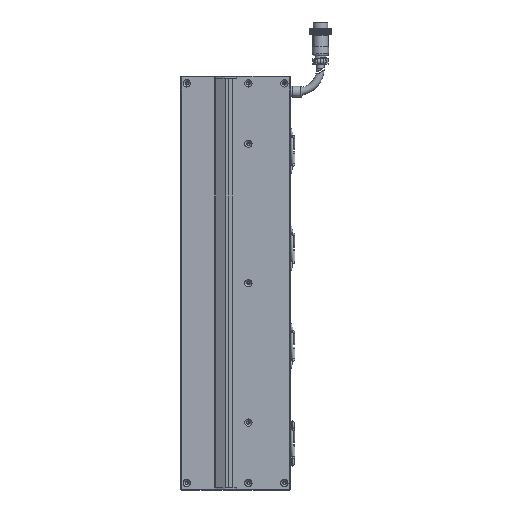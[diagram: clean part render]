
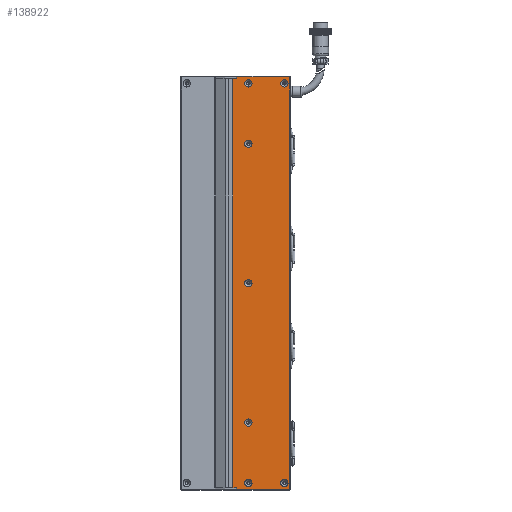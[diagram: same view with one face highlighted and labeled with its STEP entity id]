
A CAD part, left-side view. The second image highlights one B-rep face of the part: STEP entity #138922.
In plain terms, the highlighted planar face has unit normal (-1, 0, 0).
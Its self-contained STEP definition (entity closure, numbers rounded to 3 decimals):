
#1729 = DIRECTION ( 'NONE',  ( 0., 1., 0. ) ) ;
#2555 = VECTOR ( 'NONE', #88634, 1000. ) ;
#2591 = CARTESIAN_POINT ( 'NONE',  ( -24.998, -23.25, -176. ) ) ;
#4354 = CARTESIAN_POINT ( 'NONE',  ( -24.998, -23.25, 176. ) ) ;
#5633 = CARTESIAN_POINT ( 'NONE',  ( -24.998, -72.5, -176. ) ) ;
#5723 = ORIENTED_EDGE ( 'NONE', *, *, #104200, .F. ) ;
#6519 = LINE ( 'NONE', #2591, #109946 ) ;
#7404 = FACE_BOUND ( 'NONE', #55818, .T. ) ;
#9993 = CARTESIAN_POINT ( 'NONE',  ( -24.998, -36.5, 3.15 ) ) ;
#10130 = VERTEX_POINT ( 'NONE', #103655 ) ;
#12204 = EDGE_CURVE ( 'NONE', #55091, #55091, #46244, .T. ) ;
#14353 = CARTESIAN_POINT ( 'NONE',  ( -24.998, -36.5, -172. ) ) ;
#14438 = EDGE_CURVE ( 'NONE', #77381, #77381, #15612, .T. ) ;
#14886 = EDGE_CURVE ( 'NONE', #10130, #94433, #126566, .T. ) ;
#15412 = ORIENTED_EDGE ( 'NONE', *, *, #147973, .T. ) ;
#15612 = CIRCLE ( 'NONE', #137380, 3.15 ) ;
#19429 = ORIENTED_EDGE ( 'NONE', *, *, #82375, .F. ) ;
#19968 = CARTESIAN_POINT ( 'NONE',  ( -24.998, -72., 177.5 ) ) ;
#21220 = EDGE_CURVE ( 'NONE', #145749, #145749, #59799, .T. ) ;
#22109 = DIRECTION ( 'NONE',  ( 0., 0., 1. ) ) ;
#22849 = VERTEX_POINT ( 'NONE', #4354 ) ;
#24108 = DIRECTION ( 'NONE',  ( 0., 0., 1. ) ) ;
#24683 = ORIENTED_EDGE ( 'NONE', *, *, #36171, .F. ) ;
#27700 = ORIENTED_EDGE ( 'NONE', *, *, #99418, .T. ) ;
#28276 = EDGE_CURVE ( 'NONE', #53300, #53300, #83536, .T. ) ;
#31419 = CARTESIAN_POINT ( 'NONE',  ( -24.998, -72.5, 176. ) ) ;
#32085 = CARTESIAN_POINT ( 'NONE',  ( -24.998, -72., -177.5 ) ) ;
#33001 = CARTESIAN_POINT ( 'NONE',  ( -24.998, -36.5, 0. ) ) ;
#35747 = LINE ( 'NONE', #5633, #39437 ) ;
#36171 = EDGE_CURVE ( 'NONE', #129529, #22849, #6519, .T. ) ;
#39437 = VECTOR ( 'NONE', #112661, 1000. ) ;
#41566 = CARTESIAN_POINT ( 'NONE',  ( -24.998, -26.5, -176. ) ) ;
#43852 = VERTEX_POINT ( 'NONE', #150104 ) ;
#45064 = DIRECTION ( 'NONE',  ( 0., 0., -1. ) ) ;
#46124 = VERTEX_POINT ( 'NONE', #144375 ) ;
#46244 = CIRCLE ( 'NONE', #114302, 3.15 ) ;
#48413 = EDGE_LOOP ( 'NONE', ( #113689 ) ) ;
#49996 = FACE_BOUND ( 'NONE', #48413, .T. ) ;
#50775 = CARTESIAN_POINT ( 'NONE',  ( -24.998, -26.5, 169. ) ) ;
#51067 = LINE ( 'NONE', #131967, #69643 ) ;
#53145 = CIRCLE ( 'NONE', #55428, 3.15 ) ;
#53300 = VERTEX_POINT ( 'NONE', #62750 ) ;
#54935 = ORIENTED_EDGE ( 'NONE', *, *, #146177, .T. ) ;
#55091 = VERTEX_POINT ( 'NONE', #143937 ) ;
#55428 = AXIS2_PLACEMENT_3D ( 'NONE', #57663, #140390, #24108 ) ;
#55818 = EDGE_LOOP ( 'NONE', ( #19429 ) ) ;
#57663 = CARTESIAN_POINT ( 'NONE',  ( -24.998, -36.5, 120. ) ) ;
#58732 = CARTESIAN_POINT ( 'NONE',  ( -24.998, -36.5, -120. ) ) ;
#59799 = CIRCLE ( 'NONE', #66512, 3.15 ) ;
#61494 = DIRECTION ( 'NONE',  ( 0., 0., 1. ) ) ;
#62214 = EDGE_LOOP ( 'NONE', ( #88160 ) ) ;
#62376 = DIRECTION ( 'NONE',  ( -1., 0., 0. ) ) ;
#62750 = CARTESIAN_POINT ( 'NONE',  ( -24.998, -67.5, -168.85 ) ) ;
#63123 = ORIENTED_EDGE ( 'NONE', *, *, #12204, .F. ) ;
#63555 = EDGE_CURVE ( 'NONE', #46124, #75722, #138916, .T. ) ;
#64802 = FACE_BOUND ( 'NONE', #101485, .T. ) ;
#66512 = AXIS2_PLACEMENT_3D ( 'NONE', #139825, #127950, #103645 ) ;
#66936 = VECTOR ( 'NONE', #77991, 1000. ) ;
#67557 = VECTOR ( 'NONE', #85634, 1000. ) ;
#68836 = PLANE ( 'NONE',  #99214 ) ;
#69581 = VERTEX_POINT ( 'NONE', #19968 ) ;
#69643 = VECTOR ( 'NONE', #1729, 1000. ) ;
#70895 = ORIENTED_EDGE ( 'NONE', *, *, #14438, .F. ) ;
#73682 = CIRCLE ( 'NONE', #117327, 3.15 ) ;
#74362 = EDGE_LOOP ( 'NONE', ( #93428, #15412, #106098, #27700, #54935, #89225, #5723, #24683 ) ) ;
#75722 = VERTEX_POINT ( 'NONE', #89166 ) ;
#76108 = DIRECTION ( 'NONE',  ( 0., 0., -1. ) ) ;
#76676 = EDGE_LOOP ( 'NONE', ( #108351 ) ) ;
#77381 = VERTEX_POINT ( 'NONE', #121220 ) ;
#77991 = DIRECTION ( 'NONE',  ( 0., -1., 0. ) ) ;
#79659 = VERTEX_POINT ( 'NONE', #41566 ) ;
#82375 = EDGE_CURVE ( 'NONE', #43852, #43852, #73682, .T. ) ;
#83536 = CIRCLE ( 'NONE', #134166, 3.15 ) ;
#85530 = CARTESIAN_POINT ( 'NONE',  ( -24.998, -36.5, 175.15 ) ) ;
#85634 = DIRECTION ( 'NONE',  ( 0., 0., -1. ) ) ;
#86894 = FACE_BOUND ( 'NONE', #62214, .T. ) ;
#88160 = ORIENTED_EDGE ( 'NONE', *, *, #28276, .F. ) ;
#88634 = DIRECTION ( 'NONE',  ( 0., -1., 0. ) ) ;
#89166 = CARTESIAN_POINT ( 'NONE',  ( -24.998, -26.5, 176. ) ) ;
#89225 = ORIENTED_EDGE ( 'NONE', *, *, #63555, .T. ) ;
#91129 = CARTESIAN_POINT ( 'NONE',  ( -24.998, -36.5, 123.15 ) ) ;
#91146 = EDGE_CURVE ( 'NONE', #101097, #101097, #53145, .T. ) ;
#91941 = DIRECTION ( 'NONE',  ( -1., 0., 0. ) ) ;
#92934 = DIRECTION ( 'NONE',  ( -1., 0., 0. ) ) ;
#93428 = ORIENTED_EDGE ( 'NONE', *, *, #134528, .T. ) ;
#94433 = VERTEX_POINT ( 'NONE', #32085 ) ;
#95481 = VERTEX_POINT ( 'NONE', #9993 ) ;
#96539 = CARTESIAN_POINT ( 'NONE',  ( -24.998, -23.25, -176. ) ) ;
#97049 = DIRECTION ( 'NONE',  ( 0., 0., 1. ) ) ;
#97077 = LINE ( 'NONE', #133657, #67557 ) ;
#97136 = DIRECTION ( 'NONE',  ( 0., 0., 1. ) ) ;
#99214 = AXIS2_PLACEMENT_3D ( 'NONE', #116390, #115918, #45064 ) ;
#99418 = EDGE_CURVE ( 'NONE', #94433, #69581, #102305, .T. ) ;
#101097 = VERTEX_POINT ( 'NONE', #91129 ) ;
#101485 = EDGE_LOOP ( 'NONE', ( #128919 ) ) ;
#102305 = LINE ( 'NONE', #145694, #135653 ) ;
#103645 = DIRECTION ( 'NONE',  ( 0., 0., 1. ) ) ;
#103655 = CARTESIAN_POINT ( 'NONE',  ( -24.998, -26.5, -177.5 ) ) ;
#104200 = EDGE_CURVE ( 'NONE', #22849, #75722, #129843, .T. ) ;
#106098 = ORIENTED_EDGE ( 'NONE', *, *, #14886, .T. ) ;
#107216 = DIRECTION ( 'NONE',  ( 0., 0., 1. ) ) ;
#107508 = VECTOR ( 'NONE', #76108, 1000. ) ;
#108351 = ORIENTED_EDGE ( 'NONE', *, *, #115793, .F. ) ;
#109218 = FACE_BOUND ( 'NONE', #76676, .T. ) ;
#109946 = VECTOR ( 'NONE', #61494, 1000. ) ;
#112661 = DIRECTION ( 'NONE',  ( 0., -1., 0. ) ) ;
#113689 = ORIENTED_EDGE ( 'NONE', *, *, #21220, .F. ) ;
#114302 = AXIS2_PLACEMENT_3D ( 'NONE', #14353, #62376, #97049 ) ;
#114682 = DIRECTION ( 'NONE',  ( 0., 0., 1. ) ) ;
#115793 = EDGE_CURVE ( 'NONE', #95481, #95481, #137726, .T. ) ;
#115918 = DIRECTION ( 'NONE',  ( 1., 0., 0. ) ) ;
#116390 = CARTESIAN_POINT ( 'NONE',  ( -24.998, -72.5, 176. ) ) ;
#117327 = AXIS2_PLACEMENT_3D ( 'NONE', #58732, #92934, #22109 ) ;
#118067 = DIRECTION ( 'NONE',  ( -1., 0., 0. ) ) ;
#120303 = FACE_BOUND ( 'NONE', #125406, .T. ) ;
#121220 = CARTESIAN_POINT ( 'NONE',  ( -24.998, -67.5, 175.15 ) ) ;
#125406 = EDGE_LOOP ( 'NONE', ( #70895 ) ) ;
#126012 = DIRECTION ( 'NONE',  ( -1., 0., 0. ) ) ;
#126566 = LINE ( 'NONE', #135700, #2555 ) ;
#127950 = DIRECTION ( 'NONE',  ( -1., 0., 0. ) ) ;
#128919 = ORIENTED_EDGE ( 'NONE', *, *, #91146, .F. ) ;
#129529 = VERTEX_POINT ( 'NONE', #96539 ) ;
#129843 = LINE ( 'NONE', #31419, #66936 ) ;
#131451 = CARTESIAN_POINT ( 'NONE',  ( -24.998, -67.5, -172. ) ) ;
#131967 = CARTESIAN_POINT ( 'NONE',  ( -24.998, -72.5, 177.5 ) ) ;
#133657 = CARTESIAN_POINT ( 'NONE',  ( -24.998, -26.5, -169. ) ) ;
#134166 = AXIS2_PLACEMENT_3D ( 'NONE', #131451, #118067, #107216 ) ;
#134528 = EDGE_CURVE ( 'NONE', #129529, #79659, #35747, .T. ) ;
#135653 = VECTOR ( 'NONE', #97136, 1000. ) ;
#135700 = CARTESIAN_POINT ( 'NONE',  ( -24.998, -72.5, -177.5 ) ) ;
#136548 = EDGE_LOOP ( 'NONE', ( #63123 ) ) ;
#137380 = AXIS2_PLACEMENT_3D ( 'NONE', #150850, #126012, #114682 ) ;
#137726 = CIRCLE ( 'NONE', #145197, 3.15 ) ;
#138916 = LINE ( 'NONE', #50775, #107508 ) ;
#138922 = ADVANCED_FACE ( 'NONE', ( #86894, #144315, #49996, #120303, #7404, #109218, #64802, #146107 ), #68836, .F. ) ;
#139825 = CARTESIAN_POINT ( 'NONE',  ( -24.998, -36.5, 172. ) ) ;
#140390 = DIRECTION ( 'NONE',  ( -1., 0., 0. ) ) ;
#143937 = CARTESIAN_POINT ( 'NONE',  ( -24.998, -36.5, -168.85 ) ) ;
#144315 = FACE_BOUND ( 'NONE', #136548, .T. ) ;
#144375 = CARTESIAN_POINT ( 'NONE',  ( -24.998, -26.5, 177.5 ) ) ;
#145197 = AXIS2_PLACEMENT_3D ( 'NONE', #33001, #91941, #149878 ) ;
#145694 = CARTESIAN_POINT ( 'NONE',  ( -24.998, -72., 176. ) ) ;
#145749 = VERTEX_POINT ( 'NONE', #85530 ) ;
#146107 = FACE_OUTER_BOUND ( 'NONE', #74362, .T. ) ;
#146177 = EDGE_CURVE ( 'NONE', #69581, #46124, #51067, .T. ) ;
#147973 = EDGE_CURVE ( 'NONE', #79659, #10130, #97077, .T. ) ;
#149878 = DIRECTION ( 'NONE',  ( 0., 0., 1. ) ) ;
#150104 = CARTESIAN_POINT ( 'NONE',  ( -24.998, -36.5, -116.85 ) ) ;
#150850 = CARTESIAN_POINT ( 'NONE',  ( -24.998, -67.5, 172. ) ) ;
